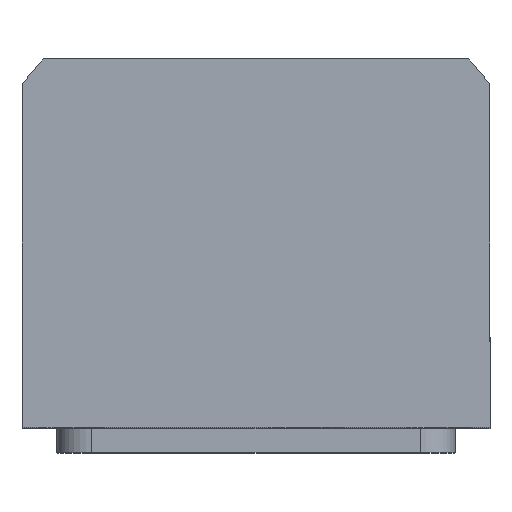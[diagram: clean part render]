
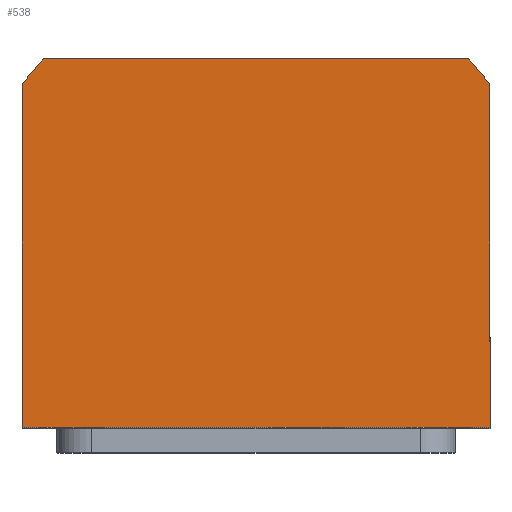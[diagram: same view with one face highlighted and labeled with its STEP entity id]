
A CAD part, top view. The second image highlights one B-rep face of the part: STEP entity #538.
In plain terms, the highlighted planar face has unit normal (0, 0, 1).
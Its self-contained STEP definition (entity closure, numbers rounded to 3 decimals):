
#271 = EDGE_CURVE ( 'NONE', #1700, #6809, #306, .T. ) ;
#306 = CIRCLE ( 'NONE', #6997, 58.5 ) ;
#531 = PLANE ( 'NONE',  #2611 ) ;
#538 = ADVANCED_FACE ( 'NONE', ( #6752 ), #531, .T. ) ;
#607 = ORIENTED_EDGE ( 'NONE', *, *, #271, .T. ) ;
#647 = CARTESIAN_POINT ( 'NONE',  ( 0., 0., 65. ) ) ;
#864 = EDGE_CURVE ( 'NONE', #6779, #9998, #9555, .T. ) ;
#1060 = DIRECTION ( 'NONE',  ( 1., 0., 0. ) ) ;
#1080 = CARTESIAN_POINT ( 'NONE',  ( -42.688, 40., 65. ) ) ;
#1082 = EDGE_CURVE ( 'NONE', #6809, #3537, #4183, .T. ) ;
#1210 = AXIS2_PLACEMENT_3D ( 'NONE', #8099, #8217, #4737 ) ;
#1700 = VERTEX_POINT ( 'NONE', #1774 ) ;
#1774 = CARTESIAN_POINT ( 'NONE',  ( 47., 34.832, 65. ) ) ;
#1931 = EDGE_CURVE ( 'NONE', #3537, #2263, #8489, .T. ) ;
#2101 = LINE ( 'NONE', #9466, #2498 ) ;
#2263 = VERTEX_POINT ( 'NONE', #3759 ) ;
#2498 = VECTOR ( 'NONE', #8606, 1000. ) ;
#2611 = AXIS2_PLACEMENT_3D ( 'NONE', #647, #9187, #4042 ) ;
#3537 = VERTEX_POINT ( 'NONE', #1080 ) ;
#3594 = CARTESIAN_POINT ( 'NONE',  ( 0., 0., 65. ) ) ;
#3759 = CARTESIAN_POINT ( 'NONE',  ( -47., 34.832, 65. ) ) ;
#3960 = LINE ( 'NONE', #6896, #9197 ) ;
#4042 = DIRECTION ( 'NONE',  ( 1., 0., 0. ) ) ;
#4183 = LINE ( 'NONE', #4451, #10208 ) ;
#4309 = DIRECTION ( 'NONE',  ( 0., 1., 0. ) ) ;
#4353 = CARTESIAN_POINT ( 'NONE',  ( 47., -34., 65. ) ) ;
#4451 = CARTESIAN_POINT ( 'NONE',  ( -42.688, 40., 65. ) ) ;
#4587 = ORIENTED_EDGE ( 'NONE', *, *, #10042, .T. ) ;
#4737 = DIRECTION ( 'NONE',  ( 1., 0., 0. ) ) ;
#4984 = VECTOR ( 'NONE', #6108, 1000. ) ;
#4992 = CARTESIAN_POINT ( 'NONE',  ( -47., -34., 65. ) ) ;
#5747 = ORIENTED_EDGE ( 'NONE', *, *, #1082, .T. ) ;
#5979 = CARTESIAN_POINT ( 'NONE',  ( 42.688, 40., 65. ) ) ;
#6108 = DIRECTION ( 'NONE',  ( 1., 0., 0. ) ) ;
#6310 = DIRECTION ( 'NONE',  ( 0., 0., 1. ) ) ;
#6752 = FACE_OUTER_BOUND ( 'NONE', #9075, .T. ) ;
#6779 = VERTEX_POINT ( 'NONE', #4992 ) ;
#6809 = VERTEX_POINT ( 'NONE', #5979 ) ;
#6896 = CARTESIAN_POINT ( 'NONE',  ( 47., 34.832, 65. ) ) ;
#6997 = AXIS2_PLACEMENT_3D ( 'NONE', #3594, #6310, #1060 ) ;
#7186 = ORIENTED_EDGE ( 'NONE', *, *, #1931, .T. ) ;
#7908 = ORIENTED_EDGE ( 'NONE', *, *, #10741, .T. ) ;
#8099 = CARTESIAN_POINT ( 'NONE',  ( 0., 0., 65. ) ) ;
#8217 = DIRECTION ( 'NONE',  ( 0., 0., 1. ) ) ;
#8489 = CIRCLE ( 'NONE', #1210, 58.5 ) ;
#8583 = CARTESIAN_POINT ( 'NONE',  ( 47., -34., 65. ) ) ;
#8606 = DIRECTION ( 'NONE',  ( 0., -1., 0. ) ) ;
#9075 = EDGE_LOOP ( 'NONE', ( #9240, #7908, #607, #5747, #7186, #4587 ) ) ;
#9187 = DIRECTION ( 'NONE',  ( 0., 0., 1. ) ) ;
#9197 = VECTOR ( 'NONE', #4309, 1000. ) ;
#9240 = ORIENTED_EDGE ( 'NONE', *, *, #864, .T. ) ;
#9466 = CARTESIAN_POINT ( 'NONE',  ( -47., -34., 65. ) ) ;
#9555 = LINE ( 'NONE', #8583, #4984 ) ;
#9998 = VERTEX_POINT ( 'NONE', #4353 ) ;
#10042 = EDGE_CURVE ( 'NONE', #2263, #6779, #2101, .T. ) ;
#10208 = VECTOR ( 'NONE', #10445, 1000. ) ;
#10445 = DIRECTION ( 'NONE',  ( -1., 0., 0. ) ) ;
#10741 = EDGE_CURVE ( 'NONE', #9998, #1700, #3960, .T. ) ;
